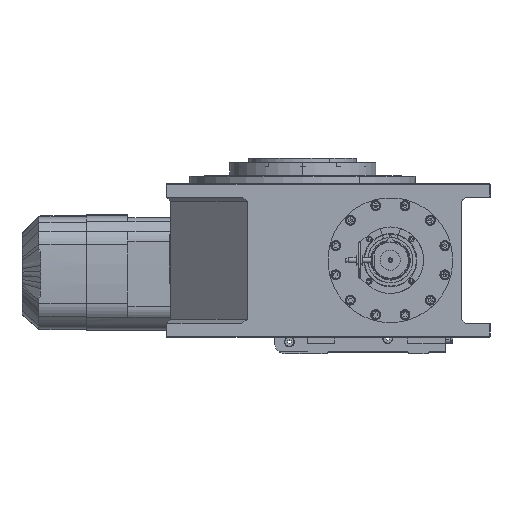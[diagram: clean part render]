
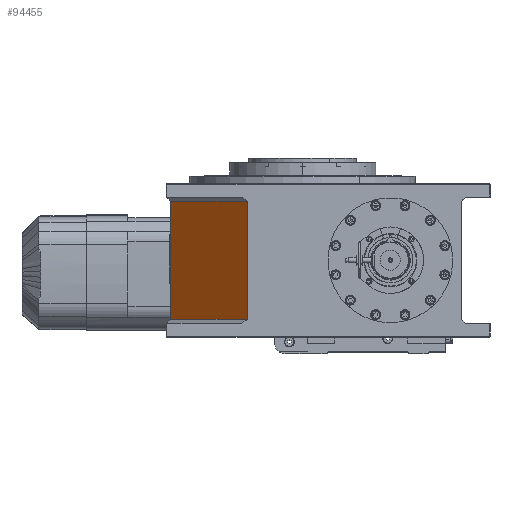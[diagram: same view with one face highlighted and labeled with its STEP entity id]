
A CAD part, top view. The second image highlights one B-rep face of the part: STEP entity #94455.
In plain terms, the highlighted planar face has unit normal (-0.707, 0, 0.707).
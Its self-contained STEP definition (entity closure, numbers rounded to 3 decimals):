
#4690 = EDGE_CURVE ( 'NONE', #76684, #93413, #8801, .T. ) ;
#5602 = VECTOR ( 'NONE', #37282, 1000. ) ;
#7982 = LINE ( 'NONE', #29129, #5602 ) ;
#8801 = LINE ( 'NONE', #88171, #60515 ) ;
#9284 = DIRECTION ( 'NONE',  ( 0.707, 0., 0.707 ) ) ;
#11101 = LINE ( 'NONE', #32245, #27610 ) ;
#11282 = CARTESIAN_POINT ( 'NONE',  ( -199., 204., 83.259 ) ) ;
#12669 = VECTOR ( 'NONE', #14103, 1000. ) ;
#14103 = DIRECTION ( 'NONE',  ( -0.707, 0., -0.707 ) ) ;
#19617 = PLANE ( 'NONE',  #58540 ) ;
#21262 = VERTEX_POINT ( 'NONE', #54010 ) ;
#24152 = DIRECTION ( 'NONE',  ( 0., -1., 0. ) ) ;
#25736 = VERTEX_POINT ( 'NONE', #45607 ) ;
#27610 = VECTOR ( 'NONE', #24152, 1000. ) ;
#27728 = FACE_OUTER_BOUND ( 'NONE', #89623, .T. ) ;
#28648 = DIRECTION ( 'NONE',  ( 0.707, 0., -0.707 ) ) ;
#29095 = CARTESIAN_POINT ( 'NONE',  ( -199., 26., 83.259 ) ) ;
#29129 = CARTESIAN_POINT ( 'NONE',  ( -199., 210., 83.259 ) ) ;
#30161 = CARTESIAN_POINT ( 'NONE',  ( -83.259, 26., 199. ) ) ;
#32245 = CARTESIAN_POINT ( 'NONE',  ( -83.259, 210., 199. ) ) ;
#37282 = DIRECTION ( 'NONE',  ( 0., -1., 0. ) ) ;
#45607 = CARTESIAN_POINT ( 'NONE',  ( -199., 204., 83.259 ) ) ;
#54010 = CARTESIAN_POINT ( 'NONE',  ( -83.259, 204., 199. ) ) ;
#56938 = ORIENTED_EDGE ( 'NONE', *, *, #4690, .T. ) ;
#58540 = AXIS2_PLACEMENT_3D ( 'NONE', #65261, #28648, #85914 ) ;
#60515 = VECTOR ( 'NONE', #9284, 1000. ) ;
#65261 = CARTESIAN_POINT ( 'NONE',  ( -83.259, 210., 199. ) ) ;
#70056 = ORIENTED_EDGE ( 'NONE', *, *, #90736, .F. ) ;
#76684 = VERTEX_POINT ( 'NONE', #29095 ) ;
#76723 = EDGE_CURVE ( 'NONE', #21262, #25736, #77183, .T. ) ;
#77183 = LINE ( 'NONE', #11282, #12669 ) ;
#85914 = DIRECTION ( 'NONE',  ( -0.707, 0., -0.707 ) ) ;
#88171 = CARTESIAN_POINT ( 'NONE',  ( -83.259, 26., 199. ) ) ;
#88449 = EDGE_CURVE ( 'NONE', #25736, #76684, #7982, .T. ) ;
#88450 = ORIENTED_EDGE ( 'NONE', *, *, #76723, .T. ) ;
#89623 = EDGE_LOOP ( 'NONE', ( #70056, #88450, #95198, #56938 ) ) ;
#90736 = EDGE_CURVE ( 'NONE', #21262, #93413, #11101, .T. ) ;
#93413 = VERTEX_POINT ( 'NONE', #30161 ) ;
#94455 = ADVANCED_FACE ( 'NONE', ( #27728 ), #19617, .F. ) ;
#95198 = ORIENTED_EDGE ( 'NONE', *, *, #88449, .T. ) ;
